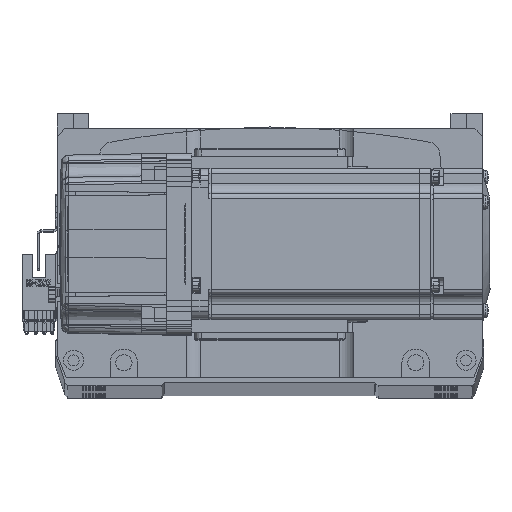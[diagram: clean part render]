
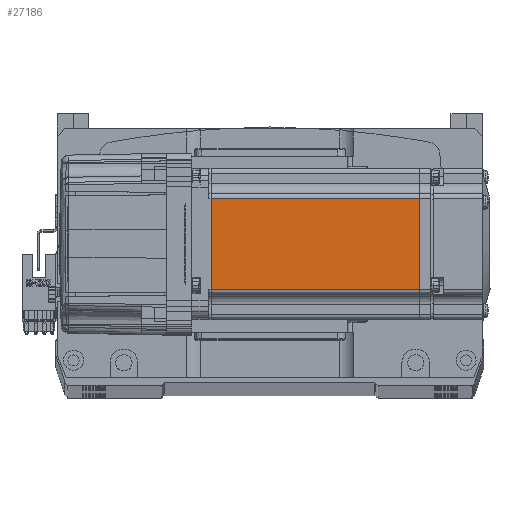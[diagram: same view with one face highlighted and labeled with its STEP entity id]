
A CAD part, top view. The second image highlights one B-rep face of the part: STEP entity #27186.
In plain terms, the highlighted planar face has unit normal (0, 0, 1) as drawn and (0, -1, 0) by its records, which use the part's own axes.
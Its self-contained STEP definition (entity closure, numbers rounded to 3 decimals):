
#551 = CARTESIAN_POINT ( 'NONE',  ( -7.75, -30., -25. ) ) ;
#759 = CARTESIAN_POINT ( 'NONE',  ( -6.5, -30., -18. ) ) ;
#1743 = LINE ( 'NONE', #5863, #11027 ) ;
#5096 = EDGE_LOOP ( 'NONE', ( #15017, #10659, #21512, #37758 ) ) ;
#5863 = CARTESIAN_POINT ( 'NONE',  ( -90.45, -30., -25. ) ) ;
#9751 = VECTOR ( 'NONE', #65137, 1000. ) ;
#10659 = ORIENTED_EDGE ( 'NONE', *, *, #49130, .T. ) ;
#11027 = VECTOR ( 'NONE', #38499, 1000. ) ;
#11318 = VERTEX_POINT ( 'NONE', #23330 ) ;
#15017 = ORIENTED_EDGE ( 'NONE', *, *, #45601, .T. ) ;
#20369 = FACE_OUTER_BOUND ( 'NONE', #5096, .T. ) ;
#21512 = ORIENTED_EDGE ( 'NONE', *, *, #39142, .T. ) ;
#23330 = CARTESIAN_POINT ( 'NONE',  ( -90.45, -30., -18. ) ) ;
#24049 = VECTOR ( 'NONE', #39758, 1000. ) ;
#24522 = CARTESIAN_POINT ( 'NONE',  ( -6.5, -30., -25. ) ) ;
#27186 = ADVANCED_FACE ( 'NONE', ( #20369 ), #56685, .T. ) ;
#27287 = AXIS2_PLACEMENT_3D ( 'NONE', #24522, #57154, #41093 ) ;
#28270 = CARTESIAN_POINT ( 'NONE',  ( -90.45, -30., 18. ) ) ;
#28393 = LINE ( 'NONE', #759, #64724 ) ;
#30228 = EDGE_CURVE ( 'NONE', #11318, #68661, #28393, .T. ) ;
#33449 = DIRECTION ( 'NONE',  ( 1., 0., 0. ) ) ;
#33858 = CARTESIAN_POINT ( 'NONE',  ( -6.5, -30., 18. ) ) ;
#37758 = ORIENTED_EDGE ( 'NONE', *, *, #30228, .T. ) ;
#38499 = DIRECTION ( 'NONE',  ( 0., 0., -1. ) ) ;
#39142 = EDGE_CURVE ( 'NONE', #41400, #11318, #1743, .T. ) ;
#39758 = DIRECTION ( 'NONE',  ( -1., 0., 0. ) ) ;
#41093 = DIRECTION ( 'NONE',  ( 0., 0., -1. ) ) ;
#41400 = VERTEX_POINT ( 'NONE', #28270 ) ;
#45601 = EDGE_CURVE ( 'NONE', #68661, #63431, #52927, .T. ) ;
#49130 = EDGE_CURVE ( 'NONE', #63431, #41400, #54486, .T. ) ;
#52927 = LINE ( 'NONE', #551, #9751 ) ;
#54486 = LINE ( 'NONE', #33858, #24049 ) ;
#56685 = PLANE ( 'NONE',  #27287 ) ;
#57154 = DIRECTION ( 'NONE',  ( 0., -1., 0. ) ) ;
#63431 = VERTEX_POINT ( 'NONE', #69248 ) ;
#64006 = CARTESIAN_POINT ( 'NONE',  ( -7.75, -30., -18. ) ) ;
#64724 = VECTOR ( 'NONE', #33449, 1000. ) ;
#65137 = DIRECTION ( 'NONE',  ( 0., 0., 1. ) ) ;
#68661 = VERTEX_POINT ( 'NONE', #64006 ) ;
#69248 = CARTESIAN_POINT ( 'NONE',  ( -7.75, -30., 18. ) ) ;
